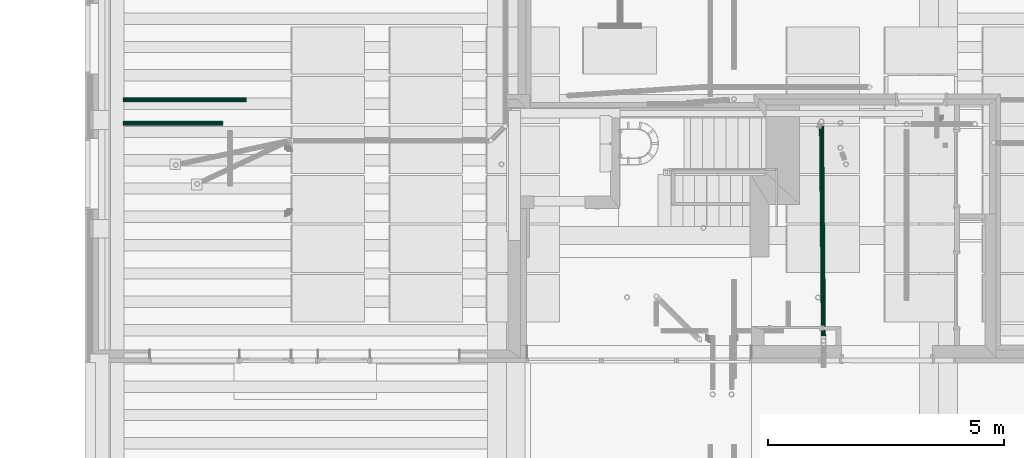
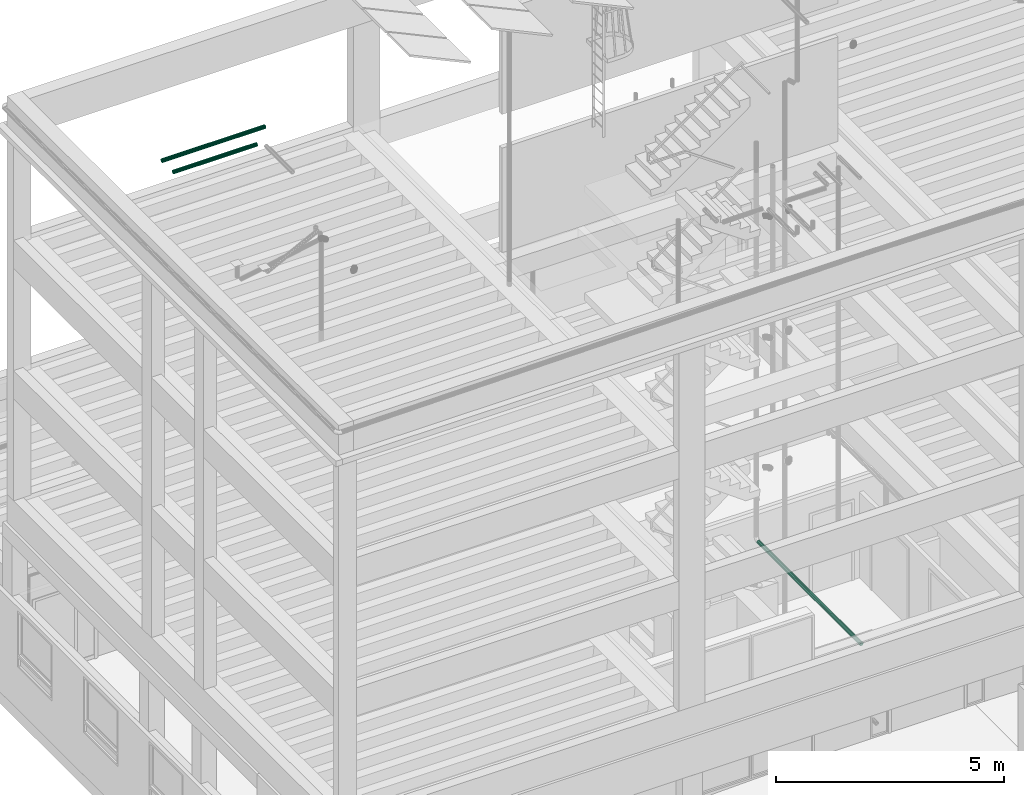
# One storey, part 43 of 106: 3 flow segments.
"""IFC2X3 building model written with IfcOpenShell, lengths in metres."""

from ifc_helpers import new_model, entity, si_unit, converted_unit, derived_unit, money_unit, direction, frame, origin_with_axes, place, context, subcontext, project, spatial, faceted_brep, material, type_object, element, save


model = new_model("IFC2X3")

# Units and contexts
model_context = context("Model", 3, precision=1e-05, world=origin_with_axes(), true_north=direction((0.0, 1.0)))
body_context = subcontext(model_context, "Body", "Model", "MODEL_VIEW", scale=1.0)
ifc_project = project(units=[si_unit("LENGTHUNIT", "METRE"), si_unit("AREAUNIT", "SQUARE_METRE"), si_unit("VOLUMEUNIT", "CUBIC_METRE"), si_unit("ABSORBEDDOSEUNIT", "GRAY"), si_unit("AMOUNTOFSUBSTANCEUNIT", "MOLE"), si_unit("DOSEEQUIVALENTUNIT", "SIEVERT"), si_unit("ELECTRICCAPACITANCEUNIT", "FARAD"), si_unit("ELECTRICCHARGEUNIT", "COULOMB"), si_unit("ELECTRICCONDUCTANCEUNIT", "SIEMENS"), si_unit("ELECTRICCURRENTUNIT", "AMPERE"), si_unit("ELECTRICRESISTANCEUNIT", "OHM"), si_unit("ELECTRICVOLTAGEUNIT", "VOLT"), si_unit("ENERGYUNIT", "JOULE"), si_unit("FORCEUNIT", "NEWTON"), si_unit("FREQUENCYUNIT", "HERTZ"), si_unit("ILLUMINANCEUNIT", "LUX"), si_unit("INDUCTANCEUNIT", "HENRY"), si_unit("LUMINOUSFLUXUNIT", "LUMEN"), si_unit("LUMINOUSINTENSITYUNIT", "CANDELA"), si_unit("MAGNETICFLUXDENSITYUNIT", "TESLA"), si_unit("MAGNETICFLUXUNIT", "WEBER"), si_unit("MASSUNIT", "GRAM"), converted_unit("PLANEANGLEUNIT", "degree", entity("IfcReal", 0.0174532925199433), si_unit("PLANEANGLEUNIT", "RADIAN"), dimensions=[0, 0, 0, 0, 0, 0, 0]), si_unit("POWERUNIT", "WATT"), si_unit("PRESSUREUNIT", "PASCAL"), si_unit("RADIOACTIVITYUNIT", "BECQUEREL"), si_unit("SOLIDANGLEUNIT", "STERADIAN"), si_unit("THERMODYNAMICTEMPERATUREUNIT", "KELVIN"), si_unit("TIMEUNIT", "SECOND"), derived_unit("ACCELERATIONUNIT", [(si_unit("LENGTHUNIT", "METRE"), 1), (si_unit("TIMEUNIT", "SECOND"), -2)]), derived_unit("ANGULARVELOCITYUNIT", [(converted_unit("PLANEANGLEUNIT", "degree", entity("IfcReal", 0.0174532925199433), si_unit("PLANEANGLEUNIT", "RADIAN"), dimensions=[0, 0, 0, 0, 0, 0, 0]), 1), (si_unit("TIMEUNIT", "SECOND"), -1)]), derived_unit("CURVATUREUNIT", [(converted_unit("PLANEANGLEUNIT", "degree", entity("IfcReal", 0.0174532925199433), si_unit("PLANEANGLEUNIT", "RADIAN"), dimensions=[0, 0, 0, 0, 0, 0, 0]), 1), (si_unit("LENGTHUNIT", "METRE"), -1)]), derived_unit("DYNAMICVISCOSITYUNIT", [(si_unit("PRESSUREUNIT", "PASCAL"), 1), (si_unit("TIMEUNIT", "SECOND"), 1)]), derived_unit("HEATFLUXDENSITYUNIT", [(si_unit("POWERUNIT", "WATT"), 1), (si_unit("LENGTHUNIT", "METRE"), -2)]), derived_unit("HEATINGVALUEUNIT", [(si_unit("ENERGYUNIT", "JOULE"), 1), (si_unit("MASSUNIT", "GRAM"), -1)]), derived_unit("INTEGERCOUNTRATEUNIT", [(si_unit("TIMEUNIT", "SECOND"), -1)]), derived_unit("IONCONCENTRATIONUNIT", [(si_unit("MASSUNIT", "GRAM"), 1), (si_unit("VOLUMEUNIT", "CUBIC_METRE"), -1)]), derived_unit("ISOTHERMALMOISTURECAPACITYUNIT", [(si_unit("VOLUMEUNIT", "CUBIC_METRE"), 1), (si_unit("MASSUNIT", "GRAM"), -1)]), derived_unit("KINEMATICVISCOSITYUNIT", [(si_unit("AREAUNIT", "SQUARE_METRE"), 1), (si_unit("TIMEUNIT", "SECOND"), -1)]), derived_unit("LINEARFORCEUNIT", [(si_unit("FORCEUNIT", "NEWTON"), 1), (si_unit("LENGTHUNIT", "METRE"), -1)]), derived_unit("LINEARMOMENTUNIT", [(si_unit("FORCEUNIT", "NEWTON"), 1), (si_unit("LENGTHUNIT", "METRE"), -1)]), derived_unit("LINEARSTIFFNESSUNIT", [(si_unit("FORCEUNIT", "NEWTON"), 1), (si_unit("LENGTHUNIT", "METRE"), -1)]), derived_unit("LINEARVELOCITYUNIT", [(si_unit("LENGTHUNIT", "METRE"), 1), (si_unit("TIMEUNIT", "SECOND"), -1)]), derived_unit("LUMINOUSINTENSITYDISTRIBUTIONUNIT", [(si_unit("LUMINOUSINTENSITYUNIT", "CANDELA"), 1), (si_unit("LUMINOUSFLUXUNIT", "LUMEN"), -1)]), derived_unit("MASSDENSITYUNIT", [(si_unit("MASSUNIT", "GRAM"), 1), (si_unit("VOLUMEUNIT", "CUBIC_METRE"), -1)]), derived_unit("MASSFLOWRATEUNIT", [(si_unit("MASSUNIT", "GRAM"), 1), (si_unit("TIMEUNIT", "SECOND"), -1)]), derived_unit("MASSPERLENGTHUNIT", [(si_unit("MASSUNIT", "GRAM"), 1), (si_unit("LENGTHUNIT", "METRE"), -1)]), derived_unit("MODULUSOFELASTICITYUNIT", [(si_unit("FORCEUNIT", "NEWTON"), 1), (si_unit("AREAUNIT", "SQUARE_METRE"), -1)]), derived_unit("MODULUSOFLINEARSUBGRADEREACTIONUNIT", [(si_unit("FORCEUNIT", "NEWTON"), 1), (si_unit("LENGTHUNIT", "METRE"), -2)]), derived_unit("MODULUSOFROTATIONALSUBGRADEREACTIONUNIT", [(si_unit("FORCEUNIT", "NEWTON"), 1), (si_unit("LENGTHUNIT", "METRE"), 1)]), derived_unit("MODULUSOFSUBGRADEREACTIONUNIT", [(si_unit("FORCEUNIT", "NEWTON"), 1), (si_unit("VOLUMEUNIT", "CUBIC_METRE"), -1)]), derived_unit("MOISTUREDIFFUSIVITYUNIT", [(si_unit("VOLUMEUNIT", "CUBIC_METRE"), 1), (si_unit("TIMEUNIT", "SECOND"), -1)]), derived_unit("MOLECULARWEIGHTUNIT", [(si_unit("MASSUNIT", "GRAM"), 1), (si_unit("AMOUNTOFSUBSTANCEUNIT", "MOLE"), -1)]), derived_unit("PLANARFORCEUNIT", [(si_unit("FORCEUNIT", "NEWTON"), 1), (si_unit("LENGTHUNIT", "METRE"), -2)]), derived_unit("ROTATIONALFREQUENCYUNIT", [(si_unit("TIMEUNIT", "SECOND"), -1)]), derived_unit("ROTATIONALMASSUNIT", [(si_unit("MASSUNIT", "GRAM"), 1), (si_unit("LENGTHUNIT", "METRE"), 2)]), derived_unit("ROTATIONALSTIFFNESSUNIT", [(si_unit("FORCEUNIT", "NEWTON"), 1), (si_unit("LENGTHUNIT", "METRE"), 1), (converted_unit("PLANEANGLEUNIT", "degree", entity("IfcReal", 0.0174532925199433), si_unit("PLANEANGLEUNIT", "RADIAN"), dimensions=[0, 0, 0, 0, 0, 0, 0]), -1)]), derived_unit("SECTIONAREAINTEGRALUNIT", [(si_unit("LENGTHUNIT", "METRE"), 5)]), derived_unit("SECTIONMODULUSUNIT", [(si_unit("LENGTHUNIT", "METRE"), 3)]), derived_unit("SHEARMODULUSUNIT", [(si_unit("FORCEUNIT", "NEWTON"), 1), (si_unit("AREAUNIT", "SQUARE_METRE"), -1)]), derived_unit("SOUNDPOWERUNIT", [(si_unit("ENERGYUNIT", "JOULE"), 1), (si_unit("TIMEUNIT", "SECOND"), -1)]), derived_unit("SPECIFICHEATCAPACITYUNIT", [(si_unit("FORCEUNIT", "NEWTON"), 1), (si_unit("MASSUNIT", "GRAM"), -1), (si_unit("THERMODYNAMICTEMPERATUREUNIT", "KELVIN"), -1)]), derived_unit("TEMPERATUREGRADIENTUNIT", [(si_unit("THERMODYNAMICTEMPERATUREUNIT", "KELVIN"), 1), (si_unit("LENGTHUNIT", "METRE"), -1)]), derived_unit("THERMALADMITTANCEUNIT", [(si_unit("POWERUNIT", "WATT"), 1), (si_unit("AREAUNIT", "SQUARE_METRE"), -1), (si_unit("THERMODYNAMICTEMPERATUREUNIT", "KELVIN"), -1)]), derived_unit("THERMALCONDUCTANCEUNIT", [(si_unit("POWERUNIT", "WATT"), 1), (si_unit("LENGTHUNIT", "METRE"), -1), (si_unit("THERMODYNAMICTEMPERATUREUNIT", "KELVIN"), -1)]), derived_unit("THERMALEXPANSIONCOEFFICIENTUNIT", [(si_unit("THERMODYNAMICTEMPERATUREUNIT", "KELVIN"), -1)]), derived_unit("THERMALRESISTANCEUNIT", [(si_unit("AREAUNIT", "SQUARE_METRE"), 1), (si_unit("POWERUNIT", "WATT"), -1)]), derived_unit("THERMALTRANSMITTANCEUNIT", [(si_unit("POWERUNIT", "WATT"), 1), (si_unit("AREAUNIT", "SQUARE_METRE"), -1), (si_unit("THERMODYNAMICTEMPERATUREUNIT", "KELVIN"), -1)]), derived_unit("TORQUEUNIT", [(si_unit("FORCEUNIT", "NEWTON"), 1), (si_unit("LENGTHUNIT", "METRE"), 1)]), derived_unit("VAPORPERMEABILITYUNIT", [(si_unit("MASSUNIT", "GRAM"), 1), (si_unit("TIMEUNIT", "SECOND"), -1)]), derived_unit("VOLUMETRICFLOWRATEUNIT", [(si_unit("VOLUMEUNIT", "CUBIC_METRE"), 1), (si_unit("TIMEUNIT", "SECOND"), -1)]), derived_unit("WARPINGCONSTANTUNIT", [(si_unit("LENGTHUNIT", "METRE"), 6)]), derived_unit("WARPINGMOMENTUNIT", [(si_unit("FORCEUNIT", "NEWTON"), 1), (si_unit("LENGTHUNIT", "METRE"), 2)]), money_unit("GBP")], contexts=[model_context])

# Site, building, storey
site_placement = place(None, origin_with_axes())
site = spatial("IfcSite", under=ifc_project, at=site_placement, Name="Site", CompositionType="ELEMENT")
building_placement = place(site_placement, origin_with_axes())
building = spatial("IfcBuilding", under=site, at=building_placement, Name="Building01", CompositionType="ELEMENT")
storey_placement = place(building_placement, origin_with_axes())
storey = spatial("IfcBuildingStorey", under=building, at=storey_placement, Name="GF", CompositionType="ELEMENT", Elevation=0.0)

# Flow segments
ifc_material_1 = material(Name="M_BSUK_Ventilation")
duct_segment_type = type_object("IfcDuctSegmentType", Name="M-RoundDuct", PredefinedType="RIGIDSEGMENT")
flow_segment_1_placement = place(storey_placement, frame((2.92, 8.532559, 17.28), z_axis=(0.0, 0.0, 1.0), x_axis=(-1.0, 0.0, 0.0)))
element("IfcFlowSegment", 1, at=flow_segment_1_placement, inside=storey, type_object=duct_segment_type, material=ifc_material_1, Name="M-RoundDuct", ObjectType="M-RoundDuct", context=body_context, shape_type="Brep", body=[
    faceted_brep([(2.120096, 0.0, -0.05), (0.0, 0.0, -0.05), (0.0, 0.019134, -0.046194), (2.120096, 0.019134, -0.046194), (0.0, 0.035355, -0.035355), (2.120096, 0.035355, -0.035355), (0.0, 0.046194, -0.019134), (2.120096, 0.046194, -0.019134), (0.0, 0.05, 0.0), (2.120096, 0.05, 0.0), (0.0, 0.046194, 0.019134), (2.120096, 0.046194, 0.019134), (0.0, 0.035355, 0.035355), (2.120096, 0.035355, 0.035355), (0.0, 0.019134, 0.046194), (2.120096, 0.019134, 0.046194), (0.0, 0.0, 0.05), (2.120096, 0.0, 0.05), (0.0, -0.019134, 0.046194), (2.120096, -0.019134, 0.046194), (0.0, -0.035355, 0.035355), (2.120096, -0.035355, 0.035355), (0.0, -0.046194, 0.019134), (2.120096, -0.046194, 0.019134), (0.0, -0.05, 0.0), (2.120096, -0.05, 0.0), (0.0, -0.046194, -0.019134), (2.120096, -0.046194, -0.019134), (0.0, -0.035355, -0.035355), (2.120096, -0.035355, -0.035355), (0.0, -0.019134, -0.046194), (2.120096, -0.019134, -0.046194)], [[[0, 1, 2, 3]], [[3, 2, 4, 5]], [[5, 4, 6, 7]], [[7, 6, 8, 9]], [[9, 8, 10, 11]], [[11, 10, 12, 13]], [[13, 12, 14, 15]], [[15, 14, 16, 17]], [[17, 16, 18, 19]], [[19, 18, 20, 21]], [[21, 20, 22, 23]], [[23, 22, 24, 25]], [[25, 24, 26, 27]], [[27, 26, 28, 29]], [[29, 28, 30, 31]], [[31, 30, 1, 0]]]),
])
flow_segment_2_placement = place(storey_placement, frame((3.42, 9.032559, 17.28), z_axis=(0.0, 0.0, 1.0), x_axis=(-1.0, 0.0, 0.0)))
element("IfcFlowSegment", 2, at=flow_segment_2_placement, inside=storey, type_object=duct_segment_type, material=ifc_material_1, Name="M-RoundDuct", ObjectType="M-RoundDuct", context=body_context, shape_type="Brep", body=[
    faceted_brep([(2.620096, 0.0, -0.05), (0.0, 0.0, -0.05), (0.0, 0.019134, -0.046194), (2.620096, 0.019134, -0.046194), (0.0, 0.035355, -0.035355), (2.620096, 0.035355, -0.035355), (0.0, 0.046194, -0.019134), (2.620096, 0.046194, -0.019134), (0.0, 0.05, 0.0), (2.620096, 0.05, 0.0), (0.0, 0.046194, 0.019134), (2.620096, 0.046194, 0.019134), (0.0, 0.035355, 0.035355), (2.620096, 0.035355, 0.035355), (0.0, 0.019134, 0.046194), (2.620096, 0.019134, 0.046194), (0.0, 0.0, 0.05), (2.620096, 0.0, 0.05), (0.0, -0.019134, 0.046194), (2.620096, -0.019134, 0.046194), (0.0, -0.035355, 0.035355), (2.620096, -0.035355, 0.035355), (0.0, -0.046194, 0.019134), (2.620096, -0.046194, 0.019134), (0.0, -0.05, 0.0), (2.620096, -0.05, 0.0), (0.0, -0.046194, -0.019134), (2.620096, -0.046194, -0.019134), (0.0, -0.035355, -0.035355), (2.620096, -0.035355, -0.035355), (0.0, -0.019134, -0.046194), (2.620096, -0.019134, -0.046194)], [[[0, 1, 2, 3]], [[3, 2, 4, 5]], [[5, 4, 6, 7]], [[7, 6, 8, 9]], [[9, 8, 10, 11]], [[11, 10, 12, 13]], [[13, 12, 14, 15]], [[15, 14, 16, 17]], [[17, 16, 18, 19]], [[19, 18, 20, 21]], [[21, 20, 22, 23]], [[23, 22, 24, 25]], [[25, 24, 26, 27]], [[27, 26, 28, 29]], [[29, 28, 30, 31]], [[31, 30, 1, 0]]]),
])
ifc_material_2 = material(Name="M_BSUK_ColdWater")
pipe_segment_type = type_object("IfcPipeSegmentType", Name="M-BmpStraightpipe-DefaultPipe", PredefinedType="RIGIDSEGMENT")
flow_segment_3_placement = place(storey_placement, frame((15.605152, 8.473664, 2.225008), z_axis=(0.00011233, -0.01249852, 0.99992188), x_axis=(0.00898677, -0.9998815, -0.01249902)))
element("IfcFlowSegment", 3, at=flow_segment_3_placement, inside=storey, type_object=pipe_segment_type, material=ifc_material_2, Name="M-BmpStraightpipe-DefaultPipe", ObjectType="M-BmpStraightpipe-DefaultPipe", context=body_context, shape_type="Brep", body=[
    faceted_brep([(4.452105, 0.0, -0.05), (0.0, 0.0, -0.05), (0.0, 0.019134, -0.046194), (4.452105, 0.019134, -0.046194), (0.0, 0.035355, -0.035355), (4.452105, 0.035355, -0.035355), (0.0, 0.046194, -0.019134), (4.452105, 0.046194, -0.019134), (0.0, 0.05, 0.0), (4.452105, 0.05, 0.0), (0.0, 0.046194, 0.019134), (4.452105, 0.046194, 0.019134), (0.0, 0.035355, 0.035355), (4.452105, 0.035355, 0.035355), (0.0, 0.019134, 0.046194), (4.452105, 0.019134, 0.046194), (0.0, 0.0, 0.05), (4.452105, 0.0, 0.05), (0.0, -0.019134, 0.046194), (4.452105, -0.019134, 0.046194), (0.0, -0.035355, 0.035355), (4.452105, -0.035355, 0.035355), (0.0, -0.046194, 0.019134), (4.452105, -0.046194, 0.019134), (0.0, -0.05, 0.0), (4.452105, -0.05, 0.0), (0.0, -0.046194, -0.019134), (4.452105, -0.046194, -0.019134), (0.0, -0.035355, -0.035355), (4.452105, -0.035355, -0.035355), (0.0, -0.019134, -0.046194), (4.452105, -0.019134, -0.046194)], [[[0, 1, 2, 3]], [[3, 2, 4, 5]], [[5, 4, 6, 7]], [[7, 6, 8, 9]], [[9, 8, 10, 11]], [[11, 10, 12, 13]], [[13, 12, 14, 15]], [[15, 14, 16, 17]], [[17, 16, 18, 19]], [[19, 18, 20, 21]], [[21, 20, 22, 23]], [[23, 22, 24, 25]], [[25, 24, 26, 27]], [[27, 26, 28, 29]], [[29, 28, 30, 31]], [[31, 30, 1, 0]]]),
])

save(model, "model.ifc")
